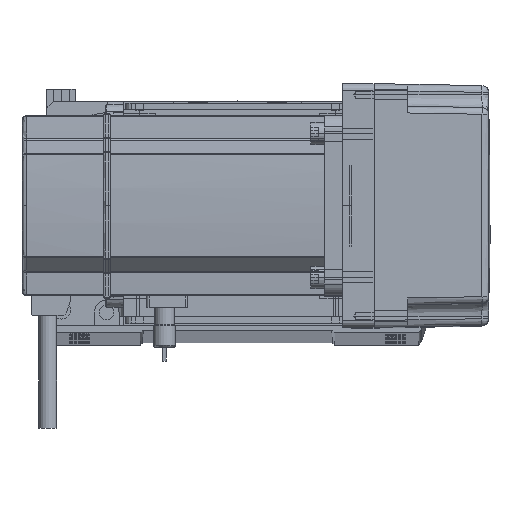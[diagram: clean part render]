
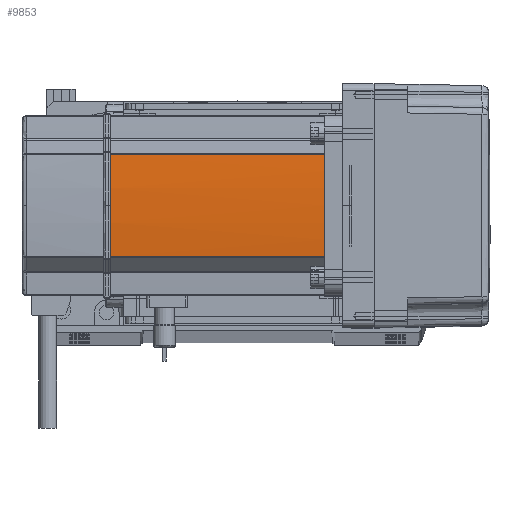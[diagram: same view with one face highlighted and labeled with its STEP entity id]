
A CAD part, top view. The second image highlights one B-rep face of the part: STEP entity #9853.
In plain terms, the highlighted cylindrical face has radius 270 mm (diameter 540 mm), a partial arc.
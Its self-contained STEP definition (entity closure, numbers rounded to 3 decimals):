
#26 = DIRECTION ( 'NONE',  ( 0., 0., -1. ) ) ;
#5633 = DIRECTION ( 'NONE',  ( 1., 0., 0. ) ) ;
#5672 = EDGE_LOOP ( 'NONE', ( #58483, #45894, #31675, #29218, #66048 ) ) ;
#8900 = DIRECTION ( 'NONE',  ( 0., 0., -1. ) ) ;
#9853 = ADVANCED_FACE ( 'NONE', ( #27560 ), #34045, .T. ) ;
#13488 = EDGE_CURVE ( 'NONE', #28146, #37696, #16595, .T. ) ;
#15494 = AXIS2_PLACEMENT_3D ( 'NONE', #62059, #51946, #5633 ) ;
#16595 = CIRCLE ( 'NONE', #35208, 270. ) ;
#19392 = DIRECTION ( 'NONE',  ( 0., 0., 1. ) ) ;
#21903 = VERTEX_POINT ( 'NONE', #24732 ) ;
#23217 = DIRECTION ( 'NONE',  ( 0., 0., -1. ) ) ;
#23431 = DIRECTION ( 'NONE',  ( 1., 0., 0. ) ) ;
#24663 = CARTESIAN_POINT ( 'NONE',  ( -39.042, 22.724, 39. ) ) ;
#24732 = CARTESIAN_POINT ( 'NONE',  ( -39.042, 22.724, 134. ) ) ;
#27560 = FACE_OUTER_BOUND ( 'NONE', #5672, .T. ) ;
#28146 = VERTEX_POINT ( 'NONE', #29300 ) ;
#29218 = ORIENTED_EDGE ( 'NONE', *, *, #65899, .F. ) ;
#29300 = CARTESIAN_POINT ( 'NONE',  ( -39.042, -22.724, 134. ) ) ;
#30382 = DIRECTION ( 'NONE',  ( 1., 0., 0. ) ) ;
#31675 = ORIENTED_EDGE ( 'NONE', *, *, #59793, .T. ) ;
#32768 = CARTESIAN_POINT ( 'NONE',  ( -39.042, -22.724, 39. ) ) ;
#34045 = CYLINDRICAL_SURFACE ( 'NONE', #36688, 270. ) ;
#35208 = AXIS2_PLACEMENT_3D ( 'NONE', #50201, #26, #30382 ) ;
#35713 = VERTEX_POINT ( 'NONE', #32768 ) ;
#35982 = AXIS2_PLACEMENT_3D ( 'NONE', #49116, #23217, #23431 ) ;
#36688 = AXIS2_PLACEMENT_3D ( 'NONE', #62796, #62573, #37201 ) ;
#37019 = VERTEX_POINT ( 'NONE', #24663 ) ;
#37201 = DIRECTION ( 'NONE',  ( 1., 0., 0. ) ) ;
#37696 = VERTEX_POINT ( 'NONE', #65735 ) ;
#43681 = EDGE_CURVE ( 'NONE', #35713, #28146, #57631, .T. ) ;
#44702 = VECTOR ( 'NONE', #8900, 1000. ) ;
#44844 = EDGE_CURVE ( 'NONE', #37696, #21903, #54275, .T. ) ;
#45097 = CARTESIAN_POINT ( 'NONE',  ( -39.042, -22.724, 0. ) ) ;
#45894 = ORIENTED_EDGE ( 'NONE', *, *, #44844, .T. ) ;
#48691 = LINE ( 'NONE', #54968, #44702 ) ;
#49116 = CARTESIAN_POINT ( 'NONE',  ( 230., 0., 134. ) ) ;
#50201 = CARTESIAN_POINT ( 'NONE',  ( 230., 0., 134. ) ) ;
#51946 = DIRECTION ( 'NONE',  ( 0., 0., -1. ) ) ;
#54275 = CIRCLE ( 'NONE', #35982, 270. ) ;
#54968 = CARTESIAN_POINT ( 'NONE',  ( -39.042, 22.724, 0. ) ) ;
#57631 = LINE ( 'NONE', #45097, #62494 ) ;
#58483 = ORIENTED_EDGE ( 'NONE', *, *, #13488, .T. ) ;
#59793 = EDGE_CURVE ( 'NONE', #21903, #37019, #48691, .T. ) ;
#60325 = CIRCLE ( 'NONE', #15494, 270. ) ;
#62059 = CARTESIAN_POINT ( 'NONE',  ( 230., 0., 39. ) ) ;
#62494 = VECTOR ( 'NONE', #19392, 1000. ) ;
#62573 = DIRECTION ( 'NONE',  ( 0., 0., 1. ) ) ;
#62796 = CARTESIAN_POINT ( 'NONE',  ( 230., 0., 0. ) ) ;
#65735 = CARTESIAN_POINT ( 'NONE',  ( -40., 0., 134. ) ) ;
#65899 = EDGE_CURVE ( 'NONE', #35713, #37019, #60325, .T. ) ;
#66048 = ORIENTED_EDGE ( 'NONE', *, *, #43681, .T. ) ;
